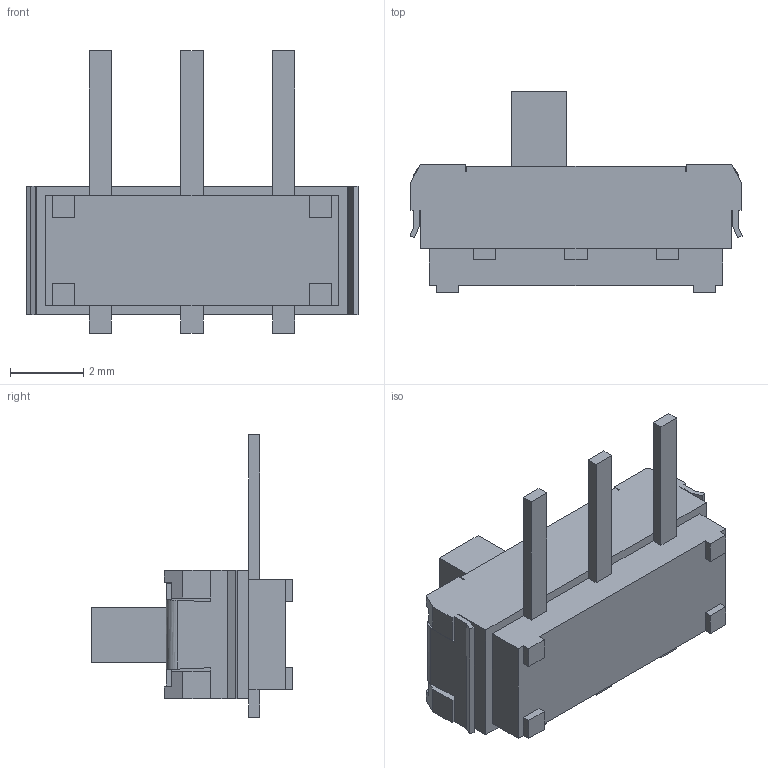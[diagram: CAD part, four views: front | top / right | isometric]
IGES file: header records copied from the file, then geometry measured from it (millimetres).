
Start section:  PTC IGES file: NSS524-012N-ABBD1B.igs
Global section: file name: NSS524-012N-ABBD1B.igs; native system: Pro/ENGINEER by Parametric Technology Corporation; preprocessor: 2008230; author: Rd-Ken; organization: Unknown; date: 20111018.114327; units: millimetre
Bounding box: 9.05 x 5.5 x 7.7 mm (x, y, z)
Volume: 72.4 mm3; surface area: 340.2 mm2
Topology: 1 solids, 1 shells, 321 faces, 972 edges, 628 vertices
Faces by surface type: bspline 283, revolution 38
